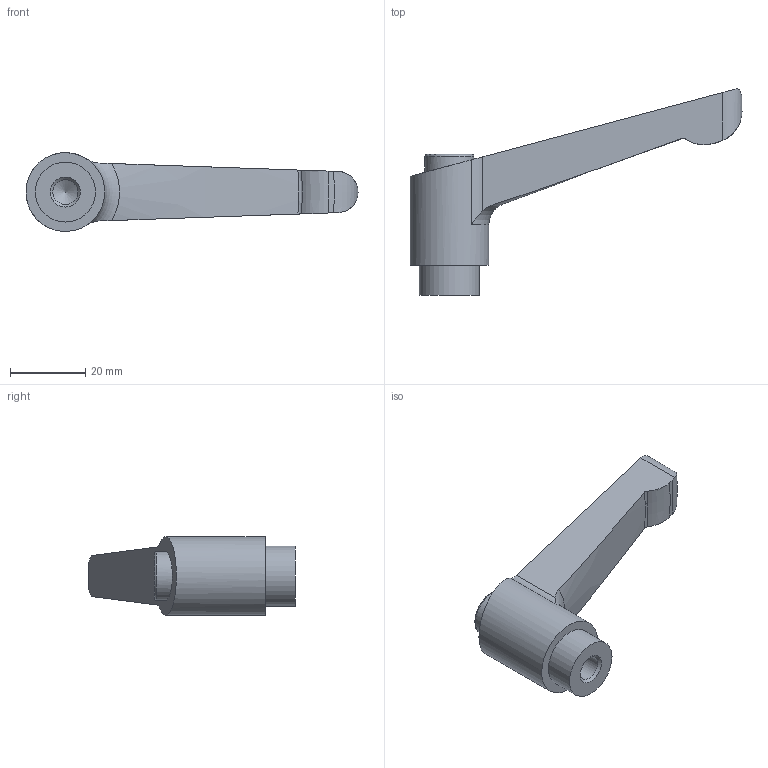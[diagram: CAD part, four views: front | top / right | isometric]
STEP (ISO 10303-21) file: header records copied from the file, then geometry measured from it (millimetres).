
FILE_DESCRIPTION( ( 'STEP AP203' ), '1' );
FILE_NAME( 'C:/Temp/Ganter_Step_05_03_2020/data/2_1/gn303_1/gn303_1_b/Adjustable hand lever GN 303.1-78-M8-SW-G.stp', '2020-03-05T11:21:57', ( 'License CC BY-ND 4.0' ), ( 'CADENAS' ), ' ', 'PARTsolutions', ' ' );
FILE_SCHEMA( ( 'CONFIG_CONTROL_DESIGN' ) );
Length unit declared in the file: millimetre
Products named in the file (1): _Adjustable hand lever GN 303.1-78-M8-SW-G
Bounding box: 88.49 x 55 x 20.97 mm (x, y, z)
Volume: 21134.5 mm3; surface area: 6636.7 mm2
Topology: 1 solids, 1 shells, 24 faces, 59 edges, 39 vertices
Faces by surface type: cylinder 7, plane 6, torus 6, cone 5
Full cylindrical faces by diameter (mm): 6.647 x1, 13 x1, 16 x1, 21 x1
Entity records: 836 total; most frequent: CARTESIAN_POINT 285, DIRECTION 100, ORIENTED_EDGE 98, EDGE_CURVE 49, AXIS2_PLACEMENT_3D 46, VERTEX_POINT 37, EDGE_LOOP 33, FACE_OUTER_BOUND 29
